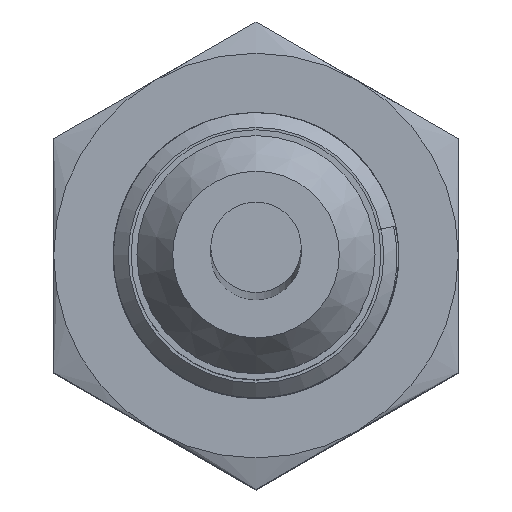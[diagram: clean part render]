
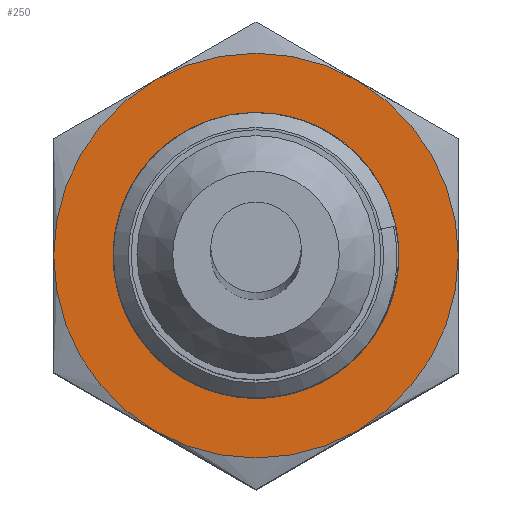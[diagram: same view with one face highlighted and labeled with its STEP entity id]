
A CAD part, top view. The second image highlights one B-rep face of the part: STEP entity #250.
In plain terms, the highlighted planar face has unit normal (0, 0, 1).
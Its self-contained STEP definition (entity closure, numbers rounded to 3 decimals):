
#128=PLANE('',#734);
#209=FACE_BOUND('',#333,.T.);
#210=FACE_BOUND('',#334,.T.);
#250=ADVANCED_FACE('',(#209,#210),#128,.F.);
#333=EDGE_LOOP('',(#441));
#334=EDGE_LOOP('',(#442,#443));
#441=ORIENTED_EDGE('',*,*,#622,.T.);
#442=ORIENTED_EDGE('',*,*,#609,.F.);
#443=ORIENTED_EDGE('',*,*,#607,.F.);
#541=VERTEX_POINT('',#1016);
#544=VERTEX_POINT('',#1031);
#557=VERTEX_POINT('',#1076);
#607=EDGE_CURVE('',#544,#541,#685,.T.);
#609=EDGE_CURVE('',#541,#544,#686,.T.);
#622=EDGE_CURVE('',#557,#557,#690,.T.);
#685=CIRCLE('',#724,8.5);
#686=CIRCLE('',#726,8.5);
#690=CIRCLE('',#733,5.96);
#724=AXIS2_PLACEMENT_3D('',#1032,#823,#824);
#726=AXIS2_PLACEMENT_3D('',#1039,#827,#828);
#733=AXIS2_PLACEMENT_3D('',#1075,#847,#848);
#734=AXIS2_PLACEMENT_3D('',#1077,#849,#850);
#823=DIRECTION('',(0.,0.,-1.));
#824=DIRECTION('',(0.,1.,0.));
#827=DIRECTION('',(0.,0.,-1.));
#828=DIRECTION('',(0.,1.,0.));
#847=DIRECTION('',(0.,0.,-1.));
#848=DIRECTION('',(0.,1.,0.));
#849=DIRECTION('',(0.,0.,-1.));
#850=DIRECTION('',(0.,1.,0.));
#1016=CARTESIAN_POINT('',(8.5,0.,26.5));
#1031=CARTESIAN_POINT('',(-8.5,0.,26.5));
#1032=CARTESIAN_POINT('',(0.,0.,26.5));
#1039=CARTESIAN_POINT('',(0.,0.,26.5));
#1075=CARTESIAN_POINT('',(0.,0.,26.5));
#1076=CARTESIAN_POINT('',(0.,5.96,26.5));
#1077=CARTESIAN_POINT('',(0.,-5.46,26.5));
